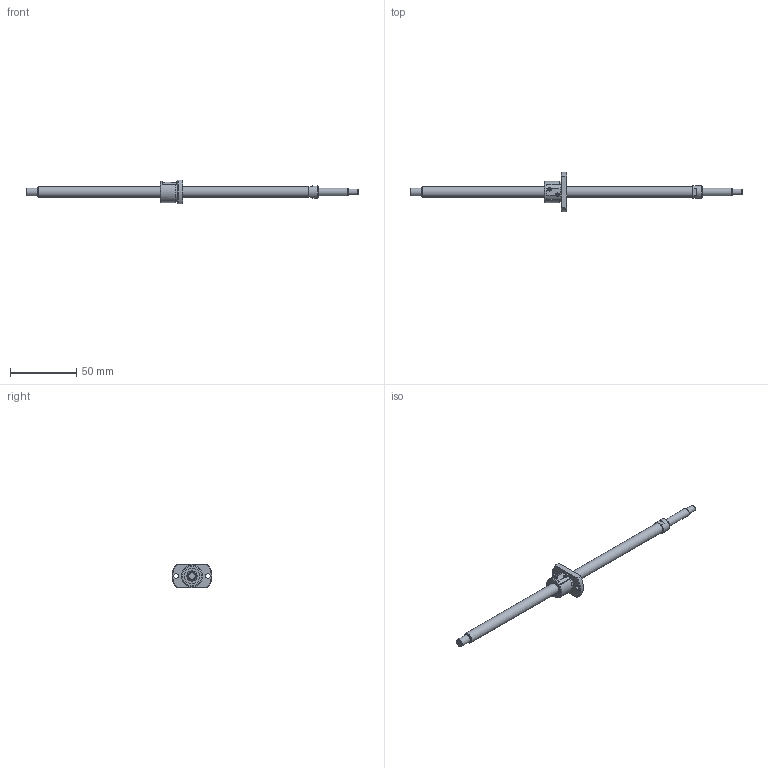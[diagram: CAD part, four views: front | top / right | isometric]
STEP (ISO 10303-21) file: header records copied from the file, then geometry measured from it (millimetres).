
FILE_DESCRIPTION(/* description */ ('STEP AP214'),/* implementation_level */ '2;1');
FILE_NAME(/* name */ 'SG0801-201R250C3C0X(92)',/* time_stamp */ '2026-07-21T16:43:33+02:00',/* author */ ('License CC BY-ND 4.0'),/* organization */ ('CADENAS'),/* preprocessor_version */ 'ST-DEVELOPER v20',/* originating_system */ 'PARTsolutions',/* authorisation */ ' ');
FILE_SCHEMA (('AUTOMOTIVE_DESIGN {1 0 10303 214 3 1 1}'));
Length unit declared in the file: millimetre
Products named in the file (3): SG0801-201R250C3C0X(92); SG0801-201R250C3C_shaft; SG0801_nut
Assembly tree (2 placements, depth 2):
  SG0801-201R250C3C0X(92)
    SG0801-201R250C3C_shaft
    SG0801_nut
Bounding box: 250 x 30 x 18 mm (x, y, z)
Volume: 15225.6 mm3; surface area: 8563.2 mm2
Topology: 2 solids, 2 shells, 77 faces, 187 edges, 122 vertices
Faces by surface type: plane 36, cylinder 26, cone 14, torus 1
Full cylindrical faces by diameter (mm): 3.4 x2, 4.5 x1, 6 x2, 8 x2, 9.5 x1, 12 x2, 15.6 x1, 16 x1
Entity records: 2183 total; most frequent: CARTESIAN_POINT 414, DIRECTION 366, ORIENTED_EDGE 310, EDGE_CURVE 155, AXIS2_PLACEMENT_3D 153, EDGE_LOOP 114, FACE_BOUND 114, VERTEX_POINT 113
